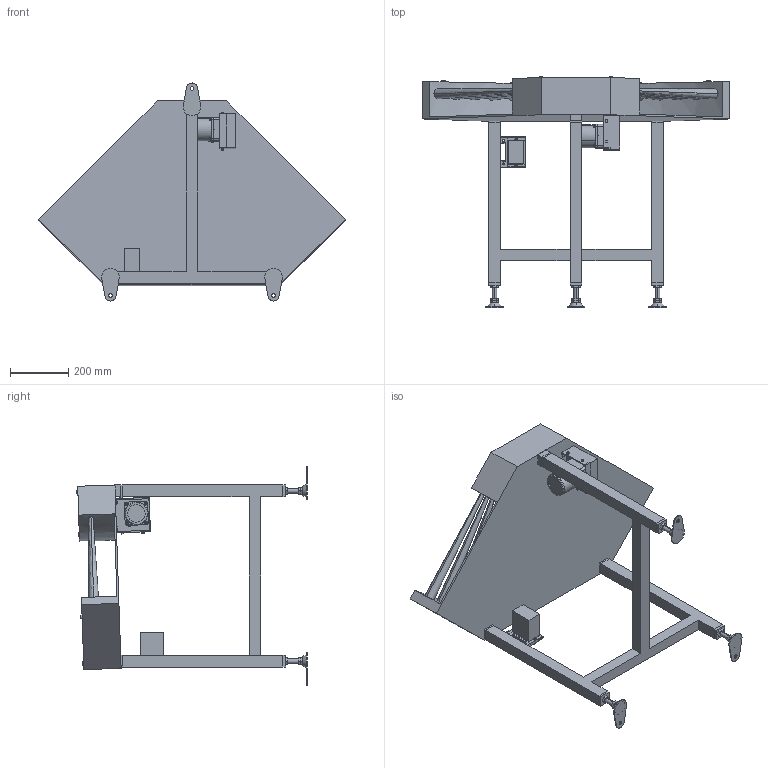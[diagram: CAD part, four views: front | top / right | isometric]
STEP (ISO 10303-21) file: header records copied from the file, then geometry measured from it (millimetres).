
FILE_DESCRIPTION( (''), '2;1');
FILE_NAME ('GT10H-303-400-R-K-75.stp','2025-02-17T15:48:24',(''),(''),'spGate 20.6.2 (****-****-****-****)','','');
FILE_SCHEMA (('AUTOMOTIVE_DESIGN'));
Length unit declared in the file: millimetre
Products named in the file (44): NewModel; TEMP_X_T-prt0; TEMP_X_T-prt1; TEMP_X_T-prt2; TEMP_X_T-prt3; TEMP_X_T-prt4; TEMP_X_T-prt5; TEMP_X_T-prt6; TEMP_X_T-prt7; TEMP_X_T-prt8; TEMP_X_T-prt9; TEMP_X_T-prt10; TEMP_X_T-prt11; TEMP_X_T-prt12; TEMP_X_T-prt13; TEMP_X_T-prt14; TEMP_X_T-prt15; TEMP_X_T-prt16; TEMP_X_T-prt17; TEMP_X_T-prt18; TEMP_X_T-prt19; TEMP_X_T-prt20; TEMP_X_T-prt21; TEMP_X_T-prt22; TEMP_X_T-prt23; TEMP_X_T-prt24; TEMP_X_T-prt25; TEMP_X_T-prt26; TEMP_X_T-prt27; TEMP_X_T-prt28; TEMP_X_T-prt29; TEMP_X_T-prt30; TEMP_X_T-prt31; TEMP_X_T-prt32; TEMP_X_T-prt33; TEMP_X_T-prt34; TEMP_X_T-prt35; TEMP_X_T-prt36; TEMP_X_T-prt37; TEMP_X_T-prt38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
Assembly tree (43 placements, depth 2):
  NewModel
    TEMP_X_T-prt0
    TEMP_X_T-prt1
    TEMP_X_T-prt2
    TEMP_X_T-prt3
    TEMP_X_T-prt4
    TEMP_X_T-prt5
    TEMP_X_T-prt6
    TEMP_X_T-prt7
    TEMP_X_T-prt8
    TEMP_X_T-prt9
    TEMP_X_T-prt10
    TEMP_X_T-prt11
    TEMP_X_T-prt12
    TEMP_X_T-prt13
    TEMP_X_T-prt14
    TEMP_X_T-prt15
    TEMP_X_T-prt16
    TEMP_X_T-prt17
    TEMP_X_T-prt18
    TEMP_X_T-prt19
    TEMP_X_T-prt20
    TEMP_X_T-prt21
    TEMP_X_T-prt22
    TEMP_X_T-prt23
    TEMP_X_T-prt24
    TEMP_X_T-prt25
    TEMP_X_T-prt26
    TEMP_X_T-prt27
    TEMP_X_T-prt28
    TEMP_X_T-prt29
    TEMP_X_T-prt30
    TEMP_X_T-prt31
    TEMP_X_T-prt32
    TEMP_X_T-prt33
    TEMP_X_T-prt34
    TEMP_X_T-prt35
    TEMP_X_T-prt36
    TEMP_X_T-prt37
    TEMP_X_T-prt38
    TEMP_X_T-prt39
    TEMP_X_T-prt40
    TEMP_X_T-prt41
    TEMP_X_T-prt42
Bounding box: 1053.59 x 792.11 x 749 mm (x, y, z)
Volume: 27370241.7 mm3; surface area: 2500546.1 mm2
Topology: 43 solids, 43 shells, 1060 faces, 2487 edges, 1566 vertices
Faces by surface type: plane 603, cylinder 252, bspline 205
Entity records: 56204 total; most frequent: CARTESIAN_POINT 11605, ORIENTED_EDGE 4934, DIRECTION 4547, COLOUR_RGB 3570, PRESENTATION_STYLE_ASSIGNMENT 3570, STYLED_ITEM 3570, EDGE_CURVE 2467, DRAUGHTING_PRE_DEFINED_CURVE_FONT 2467
